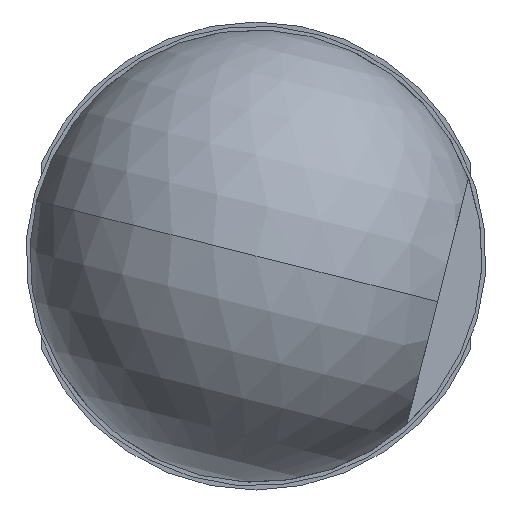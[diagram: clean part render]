
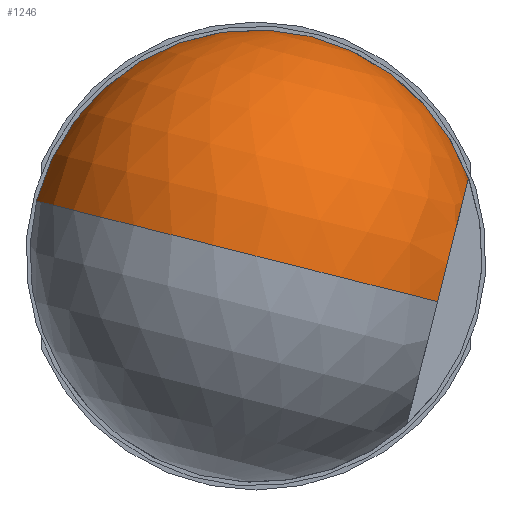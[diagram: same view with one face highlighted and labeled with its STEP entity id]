
A CAD part, front view. The second image highlights one B-rep face of the part: STEP entity #1246.
In plain terms, the highlighted spherical face has radius 5.8 mm.
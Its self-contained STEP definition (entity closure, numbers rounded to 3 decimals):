
#53 = EDGE_CURVE ( 'NONE', #2163, #1137, #2572, .T. ) ;
#332 = AXIS2_PLACEMENT_3D ( 'NONE', #2516, #2756, #1057 ) ;
#608 = CIRCLE ( 'NONE', #1884, 5.8 ) ;
#631 = CARTESIAN_POINT ( 'NONE',  ( -4.8, 0., -104.2 ) ) ;
#736 = CARTESIAN_POINT ( 'NONE',  ( 0., 0., -104.2 ) ) ;
#754 = CIRCLE ( 'NONE', #332, 5.8 ) ;
#867 = VERTEX_POINT ( 'NONE', #1268 ) ;
#892 = EDGE_CURVE ( 'NONE', #2163, #867, #754, .T. ) ;
#924 = ORIENTED_EDGE ( 'NONE', *, *, #892, .F. ) ;
#1042 = EDGE_LOOP ( 'NONE', ( #924, #1634, #1127, #2201 ) ) ;
#1057 = DIRECTION ( 'NONE',  ( 0., 0., -1. ) ) ;
#1089 = DIRECTION ( 'NONE',  ( 0., 0., -1. ) ) ;
#1107 = DIRECTION ( 'NONE',  ( -1., 0., 0. ) ) ;
#1127 = ORIENTED_EDGE ( 'NONE', *, *, #2812, .F. ) ;
#1137 = VERTEX_POINT ( 'NONE', #1188 ) ;
#1161 = CARTESIAN_POINT ( 'NONE',  ( 0., 0., -110. ) ) ;
#1183 = DIRECTION ( 'NONE',  ( -1., 0., 0. ) ) ;
#1188 = CARTESIAN_POINT ( 'NONE',  ( -4.8, 0., -107.456 ) ) ;
#1214 = CARTESIAN_POINT ( 'NONE',  ( 0., 0., -104.2 ) ) ;
#1246 = ADVANCED_FACE ( 'NONE', ( #2700 ), #2957, .T. ) ;
#1268 = CARTESIAN_POINT ( 'NONE',  ( 5.8, 0., -104.2 ) ) ;
#1450 = DIRECTION ( 'NONE',  ( 0., 1., 0. ) ) ;
#1610 = AXIS2_PLACEMENT_3D ( 'NONE', #736, #2664, #2226 ) ;
#1634 = ORIENTED_EDGE ( 'NONE', *, *, #53, .T. ) ;
#1858 = CARTESIAN_POINT ( 'NONE',  ( -4.8, 3.256, -104.2 ) ) ;
#1884 = AXIS2_PLACEMENT_3D ( 'NONE', #2251, #2014, #2698 ) ;
#2014 = DIRECTION ( 'NONE',  ( 0., 0., 1. ) ) ;
#2057 = VERTEX_POINT ( 'NONE', #1858 ) ;
#2163 = VERTEX_POINT ( 'NONE', #1161 ) ;
#2192 = CIRCLE ( 'NONE', #3101, 3.256 ) ;
#2201 = ORIENTED_EDGE ( 'NONE', *, *, #3000, .F. ) ;
#2226 = DIRECTION ( 'NONE',  ( 1., 0., 0. ) ) ;
#2251 = CARTESIAN_POINT ( 'NONE',  ( 0., 0., -104.2 ) ) ;
#2516 = CARTESIAN_POINT ( 'NONE',  ( 0., 0., -104.2 ) ) ;
#2572 = CIRCLE ( 'NONE', #2982, 5.8 ) ;
#2664 = DIRECTION ( 'NONE',  ( 0., 1., 0. ) ) ;
#2698 = DIRECTION ( 'NONE',  ( -1., 0., 0. ) ) ;
#2700 = FACE_OUTER_BOUND ( 'NONE', #1042, .T. ) ;
#2756 = DIRECTION ( 'NONE',  ( 0., -1., 0. ) ) ;
#2812 = EDGE_CURVE ( 'NONE', #2057, #1137, #2192, .T. ) ;
#2957 = SPHERICAL_SURFACE ( 'NONE', #1610, 5.8 ) ;
#2982 = AXIS2_PLACEMENT_3D ( 'NONE', #1214, #1450, #1183 ) ;
#3000 = EDGE_CURVE ( 'NONE', #867, #2057, #608, .T. ) ;
#3101 = AXIS2_PLACEMENT_3D ( 'NONE', #631, #1107, #1089 ) ;
